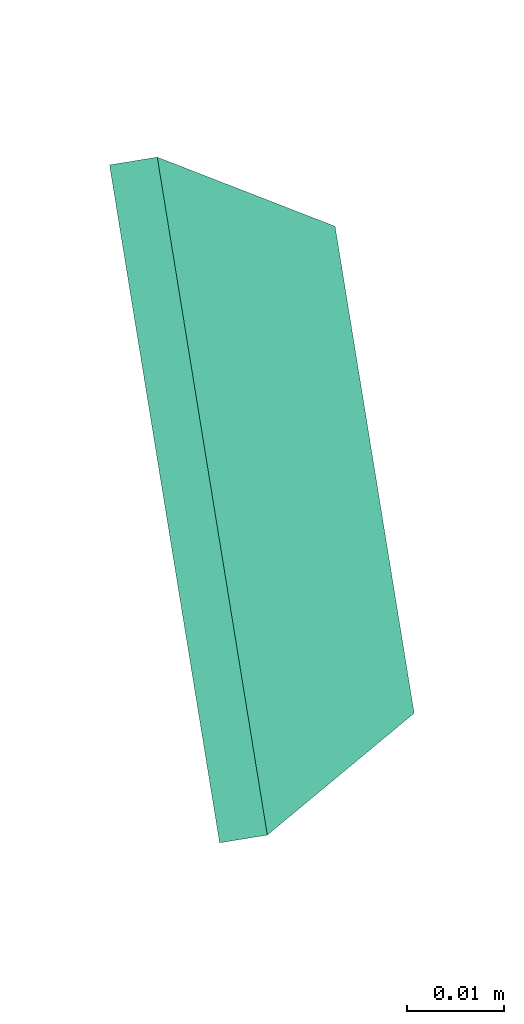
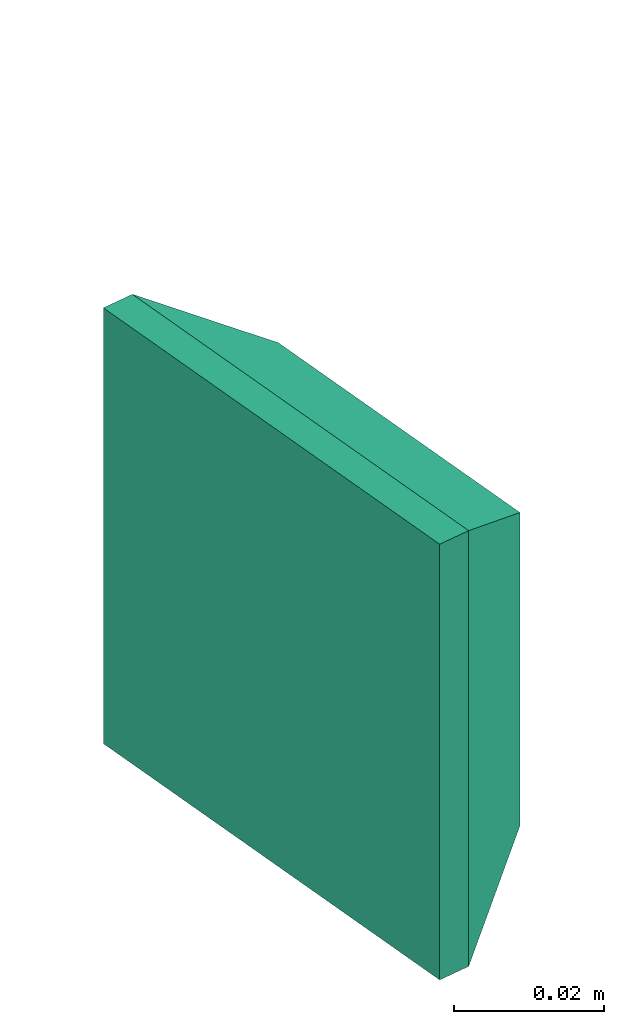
# One storey, part 8 of 20: 1 distribution control element.
"""IFC2X3 building model written with IfcOpenShell, lengths in millimetres."""

from ifc_helpers import new_model, entity, si_unit, converted_unit, derived_unit, direction, frame, origin, origin_with_axes, place, context, subcontext, project, spatial, faceted_brep, source, transform, mapped, material, type_object, element, save


model = new_model("IFC2X3")

# Units and contexts
model_context = context("Model", 3, precision=0.01, world=origin(), true_north=direction((6.12323399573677e-17, 1.0)))
plan_context = context("Plan", 3, precision=1e-05, world=origin_with_axes())
body_context = subcontext(model_context, "Body", "Model", "MODEL_VIEW")
ifc_project = project(units=[converted_unit("PLANEANGLEUNIT", "DEGREE", entity("IfcPositiveLengthMeasure", 0.0174532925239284), si_unit("PLANEANGLEUNIT", "RADIAN"), dimensions=[0, 0, 0, 0, 0, 0, 0]), si_unit("AREAUNIT", "SQUARE_METRE"), si_unit("LENGTHUNIT", "METRE", prefix="MILLI"), si_unit("MASSUNIT", "GRAM", prefix="KILO"), si_unit("POWERUNIT", "WATT"), si_unit("PRESSUREUNIT", "PASCAL", prefix="KILO"), si_unit("FORCEUNIT", "NEWTON", prefix="KILO"), si_unit("ELECTRICVOLTAGEUNIT", "VOLT"), si_unit("ELECTRICCURRENTUNIT", "AMPERE"), si_unit("THERMODYNAMICTEMPERATUREUNIT", "DEGREE_CELSIUS"), si_unit("TIMEUNIT", "SECOND"), si_unit("VOLUMEUNIT", "CUBIC_METRE"), derived_unit("LINEARVELOCITYUNIT", [(si_unit("LENGTHUNIT", "METRE"), 1), (si_unit("TIMEUNIT", "SECOND"), -1)]), derived_unit("VOLUMETRICFLOWRATEUNIT", [(si_unit("VOLUMEUNIT", "CUBIC_METRE"), 1), (si_unit("TIMEUNIT", "SECOND"), -1)]), derived_unit("THERMALTRANSMITTANCEUNIT", [(si_unit("POWERUNIT", "WATT"), 1), (si_unit("THERMODYNAMICTEMPERATUREUNIT", "KELVIN"), -1), (si_unit("AREAUNIT", "SQUARE_METRE"), -1)]), derived_unit("SOUNDPRESSUREUNIT", [(si_unit("PRESSUREUNIT", "PASCAL"), 1)])], contexts=[model_context, plan_context])

# Site, building, storey
site_placement = place(None, frame((-0.219946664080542, 0.12226179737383, 0.0), z_axis=(0.0, 0.0, 1.0), x_axis=(-0.160236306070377, 0.987078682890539, 0.0)))
site = spatial("IfcSite", under=ifc_project, at=site_placement, Name="Default", CompositionType="ELEMENT")
building_placement = place(site_placement, origin_with_axes())
building = spatial("IfcBuilding", under=site, at=building_placement, CompositionType="ELEMENT")
storey_placement = place(building_placement, frame((0.0, 0.0, 50999.9999999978), z_axis=(0.0, 0.0, 1.0), x_axis=(1.0, 0.0, 0.0)))
storey = spatial("IfcBuildingStorey", under=building, at=storey_placement, Name="Nivå D", CompositionType="ELEMENT", Elevation=50999.9999999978)

# Distribution control element
ifc_material = material(Name="<Unnamed>")
alarm_type = type_object("IfcAlarmType", Name="bryter_brann:4ed9449eabe84ffd8883e117f7a2c9", PredefinedType="NOTDEFINED", material=ifc_material)
shared_shape = source(origin(), body_context, "Body", "Brep", [
    faceted_brep([(25.5, 22.0, -25.5), (-25.5, 22.0, -25.5), (-25.5, 22.0, 25.5), (25.5, 22.0, 25.5), (35.5, 5.0, -35.5), (35.5, 5.0, 35.5), (-35.5, 5.0, 35.5), (-35.5, 5.0, -35.5)], [[[0, 1, 2, 3]], [[4, 5, 6, 7]], [[5, 4, 0, 3]], [[6, 5, 3, 2]], [[7, 6, 2, 1]], [[4, 7, 1, 0]]]),
    faceted_brep([(35.5, 5.0, -35.5), (-35.5, 5.0, -35.5), (-35.5, 5.0, 35.5), (35.5, 5.0, 35.5), (35.5, 0.0, -35.5), (35.5, 0.0, 35.5), (-35.5, 0.0, 35.5), (-35.5, 0.0, -35.5)], [[[0, 1, 2, 3]], [[4, 5, 6, 7]], [[1, 0, 4, 7]], [[2, 1, 7, 6]], [[3, 2, 6, 5]], [[0, 3, 5, 4]]]),
])
distribution_control_element_placement = place(storey_placement, frame((771337.619644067, -589237.48173883, 0.0), z_axis=(0.0, 0.0, 1.0), x_axis=(-1.0, 0.0, 0.0)))
element("IfcDistributionControlElement", 1, at=distribution_control_element_placement, inside=storey, type_object=alarm_type, material=ifc_material, Name="bryter_brann:4ed9449eabe84ffd8883e117f7a2c9", ObjectType="bryter_brann:4ed9449eabe84ffd8883e117f7a2c9", context=body_context, shape_type="MappedRepresentation", body=[
    mapped(shared_shape, transform((0.0, 0.0, 0.0), scale=1.0)),
])

save(model, "model.ifc")
